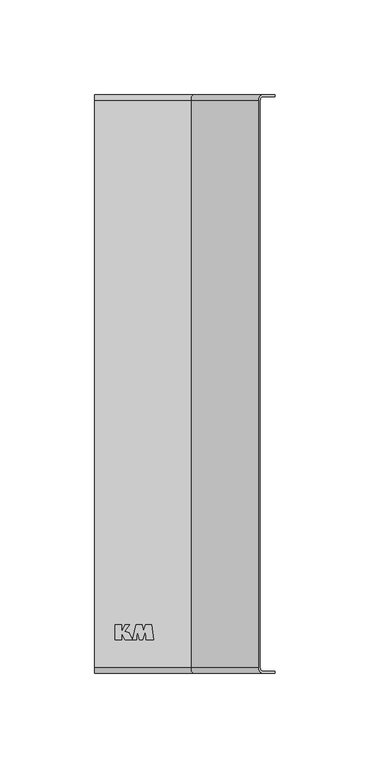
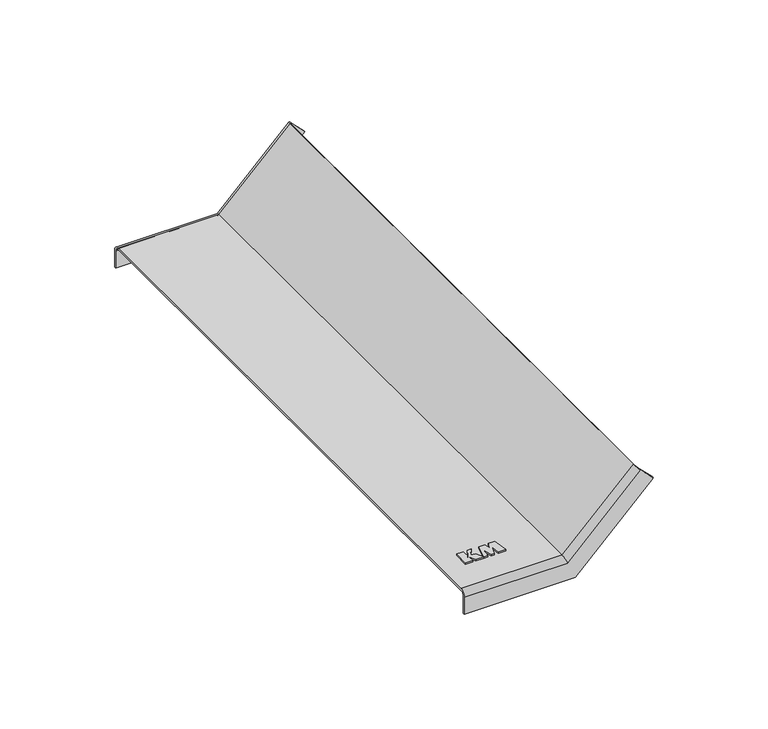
"""IFC4 building model written with IfcOpenShell, lengths in millimetres: cable carrier fitting geometry, КМ Профиль Крышка внутреннего вертикального угла KNL45 : Крышка вертикального внутреннего угла 45°."""

from ifc_helpers import new_model, si_unit, frame, origin, place, context, project, spatial, polyline, circle_curve, ellipse_curve, outline, extrude, source, transform, mapped, element, save
from ifc_brep_helpers import plane_surface, cylinder_surface, revolved_surface, advanced_brep


def cable_carrier_fitting_e7ced22e(model_context):
    return source(origin(), model_context, "Body", "SolidModel", [
        extrude(outline(polyline([(10.7611219, -126.986157), (14.2683808, -126.986157), (14.2683808, -130.564509), (16.1710243, -126.986157), (18.296989, -126.986157), (15.8305045, -130.5086619), (18.0722556, -131.194034), (19.9395647, -134.737421), (16.0411533, -134.737421), (14.3369488, -131.5720802), (14.3369488, -134.737421), (10.7611219, -134.737421), (10.7611219, -126.986157)])), frame((0.0, 0.0, 3.0), z_axis=(0.0, 0.0, 1.0), x_axis=(1.0, 0.0, 0.0)), (0.0, 0.0, 1.0), 0.8),
        extrude(outline(polyline([(22.0037241, -134.737421), (20.1056605, -134.737421), (21.9259411, -126.9647569), (24.9566696, -126.9647569), (25.7231703, -130.0390232), (26.7444777, -126.9623682), (29.9384326, -126.9623682), (31.1299301, -134.7429915), (27.2274895, -134.7429915), (26.7499968, -130.0541919), (25.2699283, -134.7434681), (23.7954176, -134.7434681), (22.3873988, -130.0696135), (22.0037241, -134.737421)])), frame((0.0, 0.0, 3.0), z_axis=(0.0, 0.0, 1.0), x_axis=(1.0, 0.0, 0.0)), (0.0, 0.0, 1.0), 0.8),
        advanced_brep(
        [(0.0, -149.5, 3.0), (0.0, 149.5, 3.0), (0.0, 152.5, 0.0), (0.0, 152.5, -9.0), (0.0, 151.5, -9.0), (0.0, 151.5, 0.0), (0.0, 149.5, 2.0), (0.0, -149.5, 2.0), (0.0, -151.5, 0.0), (0.0, -151.5, -9.0), (0.0, -152.5, -9.0), (0.0, -152.5, 0.0), (50.7573593, -149.5, 3.0), (50.7573593, 149.5, 3.0), (52.0, 152.5, 0.0), (88.7695526, 152.5, 36.7695526), (95.1335137, 152.5, 30.4055916), (55.7279221, 152.5, -9.0), (55.7279221, 151.5, -9.0), (95.1335137, 151.5, 30.4055916), (88.7695526, 151.5, 36.7695526), (52.0, 151.5, 0.0), (51.1715729, 149.5, 2.0), (51.1715729, -149.5, 2.0), (52.0, -151.5, 0.0), (88.7695526, -151.5, 36.7695526), (95.1335137, -151.5, 30.4055916), (55.7279221, -151.5, -9.0), (55.7279221, -152.5, -9.0), (95.1335137, -152.5, 30.4055916), (88.7695526, -152.5, 36.7695526), (52.0, -152.5, 0.0), (86.6482323, -149.5, 38.890873), (87.3553391, -149.5, 38.1837662), (87.3553391, 149.5, 38.1837662), (86.6482323, 149.5, 38.890873)],
        [
            (0, 1),
            (1, 2, circle_curve(frame((0.0, 149.5, 0.0), z_axis=(-1.0, 0.0, 0.0), x_axis=(0.0, 0.0, 1.0)), 3.0)),
            (2, 3),
            (3, 4),
            (4, 5),
            (5, 6, circle_curve(frame((0.0, 149.5, 0.0), z_axis=(1.0, 0.0, 0.0), x_axis=(0.0, 0.0, 1.0)), 2.0)),
            (6, 7),
            (7, 8, circle_curve(frame((0.0, -149.5, 0.0), z_axis=(1.0, 0.0, 0.0), x_axis=(0.0, 0.0, 1.0)), 2.0)),
            (8, 9),
            (9, 10),
            (10, 11),
            (11, 0, circle_curve(frame((0.0, -149.5, 0.0), z_axis=(-1.0, 0.0, 0.0), x_axis=(0.0, 0.0, 1.0)), 3.0)),
            (0, 12),
            (12, 13),
            (13, 1),
            (13, 14, ellipse_curve(frame((52.0, 149.5, 0.0), z_axis=(-0.9238795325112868, 0.0, -0.38268343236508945), x_axis=(-0.3826834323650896, 0.0, 0.923879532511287)), 3.2471766, 3.0)),
            (14, 2),
            (14, 15),
            (15, 16),
            (16, 17),
            (17, 3),
            (17, 18),
            (18, 4),
            (18, 19),
            (19, 20),
            (20, 21),
            (21, 5),
            (21, 22, ellipse_curve(frame((52.0, 149.5, 0.0), z_axis=(0.9238795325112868, 0.0, 0.38268343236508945), x_axis=(0.3826834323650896, 0.0, -0.923879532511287)), 2.1647844, 2.0)),
            (22, 6),
            (22, 23),
            (23, 7),
            (23, 24, ellipse_curve(frame((52.0, -149.5, 0.0), z_axis=(0.9238795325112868, 0.0, 0.38268343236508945), x_axis=(0.3826834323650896, 0.0, -0.923879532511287)), 2.1647844, 2.0)),
            (24, 8),
            (24, 25),
            (25, 26),
            (26, 27),
            (27, 9),
            (27, 28),
            (28, 10),
            (28, 29),
            (29, 30),
            (30, 31),
            (31, 11),
            (31, 12, ellipse_curve(frame((52.0, -149.5, 0.0), z_axis=(-0.9238795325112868, 0.0, -0.38268343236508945), x_axis=(-0.3826834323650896, 0.0, 0.923879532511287)), 3.2471766, 3.0)),
            (32, 30, circle_curve(frame((88.7695526, -149.5, 36.7695526), z_axis=(0.707106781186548, 0.0, 0.707106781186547), x_axis=(-0.707106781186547, 0.0, 0.707106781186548)), 3.0)),
            (29, 26),
            (25, 33, circle_curve(frame((88.7695526, -149.5, 36.7695526), z_axis=(-0.707106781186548, 0.0, -0.707106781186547), x_axis=(-0.707106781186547, 0.0, 0.707106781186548)), 2.0)),
            (33, 34),
            (34, 20, circle_curve(frame((88.7695526, 149.5, 36.7695526), z_axis=(-0.707106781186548, 0.0, -0.707106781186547), x_axis=(-0.707106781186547, 0.0, 0.707106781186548)), 2.0)),
            (19, 16),
            (15, 35, circle_curve(frame((88.7695526, 149.5, 36.7695526), z_axis=(0.707106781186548, 0.0, 0.707106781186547), x_axis=(-0.707106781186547, 0.0, 0.707106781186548)), 3.0)),
            (35, 32),
            (12, 32),
            (35, 13),
            (34, 22),
            (33, 23),
        ],
        [
            plane_surface(frame((0.0, 0.0, 0.0), z_axis=(-1.0, 0.0, 0.0), x_axis=(0.0, -1.0, 0.0))),
            plane_surface(frame((0.0, -149.5, 3.0), z_axis=(0.0, 0.0, 1.0), x_axis=(1.0, 0.0, 0.0))),
            cylinder_surface(frame((0.0, 149.5, 0.0), z_axis=(-1.0, 0.0, 0.0), x_axis=(0.0, 0.0, 1.0)), 3.0),
            plane_surface(frame((0.0, 152.5, 0.0), z_axis=(0.0, 1.0, 0.0), x_axis=(1.0, 0.0, 0.0))),
            plane_surface(frame((0.0, 152.5, -9.0), z_axis=(0.0, 0.0, -1.0), x_axis=(1.0, 0.0, 0.0))),
            plane_surface(frame((0.0, 151.5, -9.0), z_axis=(0.0, -1.0, 0.0), x_axis=(1.0, 0.0, 0.0))),
            revolved_surface(polyline([(52.8284271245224, 149.5, 2.0), (0.0, 149.5, 2.0)]), (0.0, 149.5, 0.0), (1.0, 0.0, 0.0)),
            plane_surface(frame((0.0, 149.5, 2.0), z_axis=(0.0, 0.0, -1.0), x_axis=(1.0, 0.0, 0.0))),
            revolved_surface(polyline([(52.8284271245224, -149.5, 2.0), (0.0, -149.5, 2.0)]), (0.0, -149.5, 0.0), (1.0, 0.0, 0.0)),
            plane_surface(frame((0.0, -151.5, 0.0), z_axis=(0.0, 1.0, 0.0), x_axis=(1.0, 0.0, 0.0))),
            plane_surface(frame((0.0, -151.5, -9.0), z_axis=(0.0, 0.0, -1.0), x_axis=(1.0, 0.0, 0.0))),
            plane_surface(frame((0.0, -152.5, -9.0), z_axis=(0.0, -1.0, 0.0), x_axis=(1.0, 0.0, 0.0))),
            cylinder_surface(frame((0.0, -149.5, 0.0), z_axis=(-1.0, 0.0, 0.0), x_axis=(0.0, 0.0, 1.0)), 3.0),
            plane_surface(frame((88.7695526, 0.0, 36.7695526), z_axis=(0.707106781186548, 0.0, 0.707106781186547), x_axis=(0.0, -1.0, 0.0))),
            plane_surface(frame((50.7573593, -149.5, 3.0), z_axis=(-0.7071067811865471, 0.0, 0.707106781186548), x_axis=(0.707106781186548, 0.0, 0.7071067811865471))),
            cylinder_surface(frame((52.0, 149.5, 0.0), z_axis=(-0.707106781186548, 0.0, -0.707106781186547), x_axis=(-0.707106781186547, 0.0, 0.707106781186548)), 3.0),
            plane_surface(frame((55.7279221, 152.5, -9.0), z_axis=(0.7071067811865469, 0.0, -0.7071067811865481), x_axis=(0.7071067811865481, 0.0, 0.7071067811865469))),
            revolved_surface(polyline([(87.35533908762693, 149.5, 38.18376621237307), (50.000000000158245, 149.5, 0.8284271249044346)]), (52.0, 149.5, 0.0), (0.707106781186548, 0.0, 0.707106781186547)),
            plane_surface(frame((51.1715729, 149.5, 2.0), z_axis=(0.7071067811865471, 0.0, -0.707106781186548), x_axis=(0.707106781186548, 0.0, 0.7071067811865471))),
            revolved_surface(polyline([(87.35533908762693, -149.5, 38.18376621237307), (50.000000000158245, -149.5, 0.8284271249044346)]), (52.0, -149.5, 0.0), (0.707106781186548, 0.0, 0.707106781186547)),
            plane_surface(frame((55.7279221, -151.5, -9.0), z_axis=(0.707106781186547, 0.0, -0.707106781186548), x_axis=(0.707106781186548, 0.0, 0.707106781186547))),
            cylinder_surface(frame((52.0, -149.5, 0.0), z_axis=(-0.707106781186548, 0.0, -0.707106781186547), x_axis=(-0.707106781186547, 0.0, 0.707106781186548)), 3.0),
        ],
        [
            (0, [[1, 2, 3, 4, 5, 6, 7, 8, 9, 10, 11, 12]]),
            (1, [[-1, 13, 14, 15]]),
            (2, [[-2, -15, 16, 17]]),
            (3, [[-3, -17, 18, 19, 20, 21]]),
            (4, [[-4, -21, 22, 23]]),
            (5, [[-5, -23, 24, 25, 26, 27]]),
            (6, [[-6, -27, 28, 29]]),
            (7, [[-7, -29, 30, 31]]),
            (8, [[-8, -31, 32, 33]]),
            (9, [[-9, -33, 34, 35, 36, 37]]),
            (10, [[-10, -37, 38, 39]]),
            (11, [[-11, -39, 40, 41, 42, 43]]),
            (12, [[-12, -43, 44, -13]]),
            (13, [[45, -41, 46, -35, 47, 48, 49, -25, 50, -19, 51, 52]]),
            (14, [[-14, 53, -52, 54]]),
            (15, [[-16, -54, -51, -18]]),
            (16, [[-22, -20, -50, -24]]),
            (17, [[-28, -26, -49, 55]]),
            (18, [[-30, -55, -48, 56]]),
            (19, [[-32, -56, -47, -34]]),
            (20, [[-38, -36, -46, -40]]),
            (21, [[-44, -42, -45, -53]]),
        ],
    ),
    ])


if __name__ == "__main__":
    model = new_model("IFC4")
    model_context = context("Model", 3, world=origin())
    ifc_project = project(units=[si_unit("LENGTHUNIT", "METRE", prefix="MILLI")], contexts=[model_context])
    site = spatial("IfcSite", under=ifc_project)
    building = spatial("IfcBuilding", under=site)
    placement = place(None, origin())
    cable_carrier_fitting_shape = cable_carrier_fitting_e7ced22e(model_context)
    element("IfcCableCarrierFitting", 1, ObjectType="КМ Профиль Крышка внутреннего вертикального угла KNL45 : Крышка вертикального внутреннего угла 45°", at=placement, inside=building, context=model_context, shape_type="MappedRepresentation", body=[
        mapped(cable_carrier_fitting_shape, transform((0.0, 0.0, 0.0), x_axis=(1.0, 0.0, 0.0), y_axis=(0.0, 1.0, 0.0), z_axis=(0.0, 0.0, 1.0))),
    ])
    save(model, "model.ifc")
